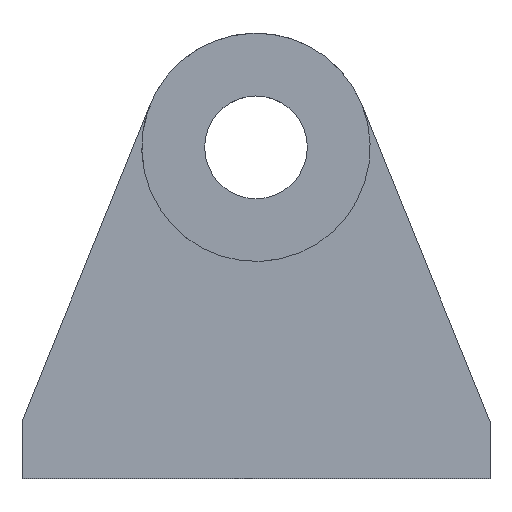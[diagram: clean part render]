
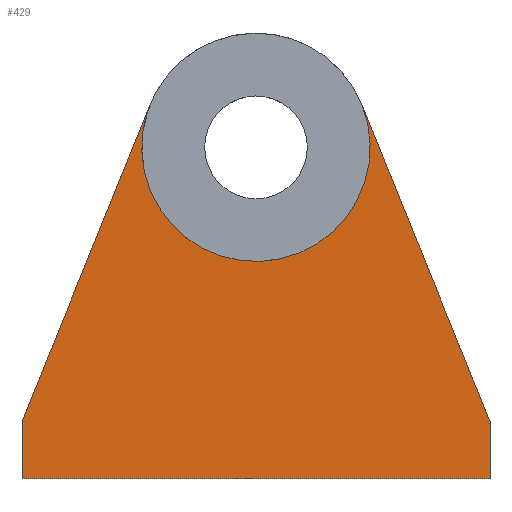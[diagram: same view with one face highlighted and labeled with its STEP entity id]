
A CAD part, top view. The second image highlights one B-rep face of the part: STEP entity #429.
In plain terms, the highlighted planar face has unit normal (0, 0, 1).
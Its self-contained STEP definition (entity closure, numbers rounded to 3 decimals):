
#41=CIRCLE('',#482,20.);
#43=CIRCLE('',#484,20.);
#61=FACE_OUTER_BOUND('',#88,.T.);
#88=EDGE_LOOP('',(#327,#328,#329,#330,#331,#332,#333));
#122=LINE('',#689,#159);
#129=LINE('',#721,#166);
#130=LINE('',#722,#167);
#131=LINE('',#724,#168);
#132=LINE('',#725,#169);
#159=VECTOR('',#550,10.);
#166=VECTOR('',#579,10.);
#167=VECTOR('',#580,10.);
#168=VECTOR('',#581,10.);
#169=VECTOR('',#582,10.);
#199=VERTEX_POINT('',#687);
#200=VERTEX_POINT('',#688);
#207=VERTEX_POINT('',#704);
#208=VERTEX_POINT('',#705);
#211=VERTEX_POINT('',#711);
#214=VERTEX_POINT('',#720);
#215=VERTEX_POINT('',#723);
#244=EDGE_CURVE('',#199,#200,#122,.T.);
#252=EDGE_CURVE('',#207,#208,#41,.T.);
#256=EDGE_CURVE('',#208,#211,#43,.T.);
#260=EDGE_CURVE('',#200,#214,#129,.T.);
#261=EDGE_CURVE('',#214,#207,#130,.T.);
#262=EDGE_CURVE('',#211,#215,#131,.T.);
#263=EDGE_CURVE('',#215,#199,#132,.T.);
#327=ORIENTED_EDGE('',*,*,#244,.T.);
#328=ORIENTED_EDGE('',*,*,#260,.T.);
#329=ORIENTED_EDGE('',*,*,#261,.T.);
#330=ORIENTED_EDGE('',*,*,#252,.T.);
#331=ORIENTED_EDGE('',*,*,#256,.T.);
#332=ORIENTED_EDGE('',*,*,#262,.T.);
#333=ORIENTED_EDGE('',*,*,#263,.T.);
#413=PLANE('',#487);
#429=ADVANCED_FACE('',(#61),#413,.T.);
#482=AXIS2_PLACEMENT_3D('',#706,#564,#565);
#484=AXIS2_PLACEMENT_3D('',#713,#570,#571);
#487=AXIS2_PLACEMENT_3D('',#719,#577,#578);
#550=DIRECTION('',(1.,0.,0.));
#564=DIRECTION('center_axis',(0.,0.,-1.));
#565=DIRECTION('ref_axis',(0.927,0.375,0.));
#570=DIRECTION('center_axis',(0.,0.,-1.));
#571=DIRECTION('ref_axis',(0.927,0.375,0.));
#577=DIRECTION('center_axis',(0.,0.,1.));
#578=DIRECTION('ref_axis',(1.,0.,0.));
#579=DIRECTION('',(0.,1.,0.));
#580=DIRECTION('',(-0.375,0.927,0.));
#581=DIRECTION('',(-0.375,-0.927,0.));
#582=DIRECTION('',(0.,-1.,0.));
#687=CARTESIAN_POINT('',(-41.,0.,0.));
#688=CARTESIAN_POINT('',(41.,0.,0.));
#689=CARTESIAN_POINT('',(-41.,0.,0.));
#704=CARTESIAN_POINT('',(18.539,65.502,0.));
#705=CARTESIAN_POINT('',(-18.539,50.498,0.));
#706=CARTESIAN_POINT('Origin',(0.,58.,0.));
#711=CARTESIAN_POINT('',(-18.539,65.502,0.));
#713=CARTESIAN_POINT('Origin',(0.,58.,0.));
#719=CARTESIAN_POINT('Origin',(0.,39.,0.));
#720=CARTESIAN_POINT('',(41.,10.,0.));
#721=CARTESIAN_POINT('',(41.,0.,0.));
#722=CARTESIAN_POINT('',(41.,10.,0.));
#723=CARTESIAN_POINT('',(-41.,10.,0.));
#724=CARTESIAN_POINT('',(-18.539,65.502,0.));
#725=CARTESIAN_POINT('',(-41.,10.,0.));
